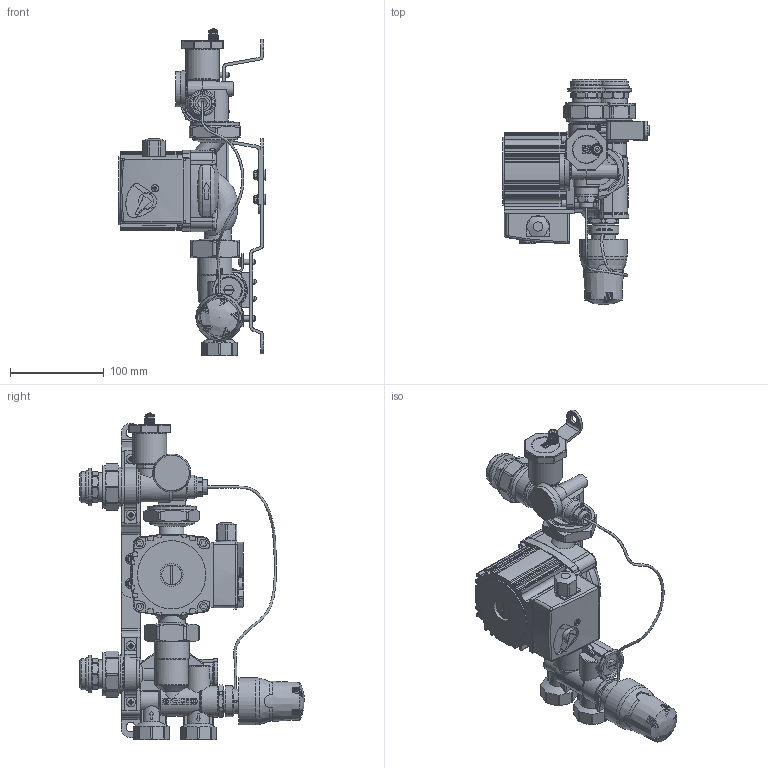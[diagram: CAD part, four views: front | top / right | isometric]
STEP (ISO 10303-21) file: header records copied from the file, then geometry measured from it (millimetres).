
FILE_DESCRIPTION(('STEP AP203'), '1');
FILE_NAME('袜耦耥 箸咫', '2025-11-21T06:37:38', ('ledenevaea'), (''), 'C3D Converter', 'C3D Toolkit', '');
FILE_SCHEMA(('CONFIG_CONTROL_DESIGN'));
Length unit declared in the file: millimetre
Bounding box: 156.2 x 240.45 x 349.8 mm (x, y, z)
Volume: 1344559.6 mm3; surface area: 291256.8 mm2
Topology: 14 solids, 21 shells, 2205 faces, 5730 edges, 3670 vertices
Faces by surface type: plane 1205, cylinder 613, cone 258, torus 70, bspline 56, sphere 2, revolution 1
Full cylindrical faces by diameter (mm): 1.5 x1, 3 x1, 3.2 x1, 3.5 x1, 3.6 x1, 3.688 x1, 3.7 x1, 4 x2, 4.134 x2, 5 x3, 5.3 x4, 5.9 x2, 6 x9, 7 x1, 7.459 x1, 7.5 x2, 8 x9, 9 x2, 9.5 x2, 10 x9, 11 x4, 11.2 x1, 13 x1, 14.3 x1, 15 x2, 16 x2, 17 x3, 18 x2, 18.632 x1, 18.8 x1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
Entity records: 131470 total; most frequent: CARTESIAN_POINT 79981, ORIENTED_EDGE 10746, DIRECTION 10276, EDGE_CURVE 5373, AXIS2_PLACEMENT_3D 3901, VERTEX_POINT 3642, EDGE_LOOP 2701, LINE 2473
